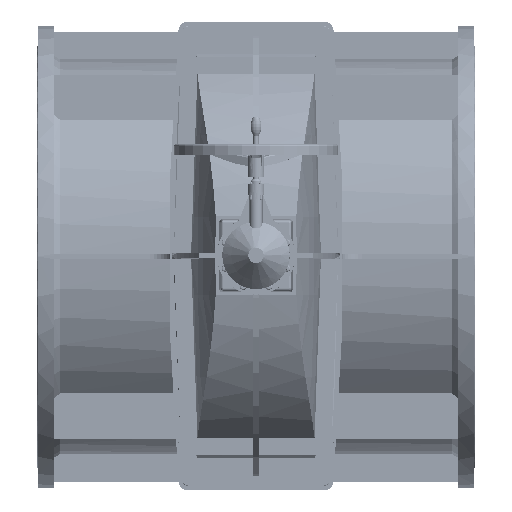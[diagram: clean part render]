
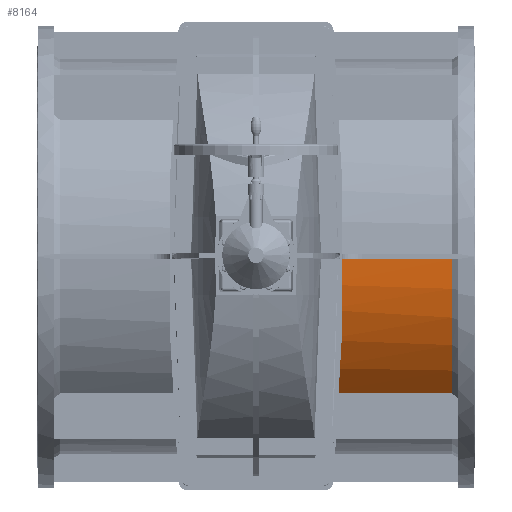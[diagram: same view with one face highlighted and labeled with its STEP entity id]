
A CAD part, top view. The second image highlights one B-rep face of the part: STEP entity #8164.
In plain terms, the highlighted cylindrical face has radius 720 mm (diameter 1440 mm), a partial arc.
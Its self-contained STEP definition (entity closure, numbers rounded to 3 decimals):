
#8164=ADVANCED_FACE('',(#12709),#12711,.T.);
#12709=FACE_BOUND('',#12710,.T.);
#12710=EDGE_LOOP('',(#30457,#30458,#30459,#30460));
#12711=CYLINDRICAL_SURFACE('',#12712,720.);
#12712=AXIS2_PLACEMENT_3D('',#12713,#12714,#12715);
#12713=CARTESIAN_POINT('',(735.,0.,0.));
#12714=DIRECTION('',(-1.,0.,0.));
#12715=DIRECTION('',(0.,1.,0.));
#30457=ORIENTED_EDGE('',*,*,#39523,.F.);
#30458=ORIENTED_EDGE('',*,*,#39653,.T.);
#30459=ORIENTED_EDGE('',*,*,#39617,.F.);
#30460=ORIENTED_EDGE('',*,*,#39582,.T.);
#39523=EDGE_CURVE('',#44534,#44536,#44537,.T.);
#39582=EDGE_CURVE('',#44627,#44536,#44628,.F.);
#39617=EDGE_CURVE('',#44627,#44693,#44694,.F.);
#39653=EDGE_CURVE('',#44534,#44693,#44750,.T.);
#44534=VERTEX_POINT('',#53932);
#44536=VERTEX_POINT('',#53943);
#44537=LINE('',#53944,#53945);
#44627=VERTEX_POINT('',#54184);
#44628=B_SPLINE_CURVE_WITH_KNOTS('',3,
(#54185,#54186,#54187,#54188,#54189,#54190,#54191,#54192,#54193,#54194,#54195,#54196,
#54197,#54198,#54199,#54200,#54201,#54202,#54203,#54204,#54205,#54206,#54207,#54208,
#54209,#54210,#54211,#54212,#54213,#54214,#54215,#54216,#54217,#54218,#54219,#54220),
.UNSPECIFIED.,.F.,.F.,
(4,1,1,1,1,1,1,1,1,1,1,1,1,1,1,1,1,1,1,1,1,1,1,1,1,1,1,1,1,1,1,1,1,4),
(0.,0.033,0.065,0.098,0.13,0.162,
0.194,0.226,0.258,0.29,0.322,
0.354,0.385,0.416,0.447,0.477,
0.516,0.555,0.593,0.62,0.647,
0.675,0.705,0.745,0.785,0.822,
0.848,0.871,0.9,0.928,0.954,
0.972,0.987,1.),
.UNSPECIFIED.);
#44693=VERTEX_POINT('',#54487);
#44694=LINE('',#54488,#54489);
#44750=CIRCLE('',#54675,720.);
#53932=CARTESIAN_POINT('',(715.,-498.964,519.072));
#53943=CARTESIAN_POINT('',(218.196,-498.964,519.072));
#53944=CARTESIAN_POINT('',(715.,-498.964,519.072));
#53945=VECTOR('',#53946,1.);
#53946=DIRECTION('',(-1.,0.,0.));
#54184=CARTESIAN_POINT('',(244.956,-10.,719.931));
#54185=CARTESIAN_POINT('',(218.196,-498.964,519.072));
#54186=CARTESIAN_POINT('',(218.634,-494.721,523.15));
#54187=CARTESIAN_POINT('',(219.514,-486.106,531.23));
#54188=CARTESIAN_POINT('',(220.83,-472.915,543.006));
#54189=CARTESIAN_POINT('',(222.135,-459.492,554.409));
#54190=CARTESIAN_POINT('',(223.424,-445.886,565.409));
#54191=CARTESIAN_POINT('',(224.696,-432.087,576.022));
#54192=CARTESIAN_POINT('',(225.953,-418.058,586.283));
#54193=CARTESIAN_POINT('',(227.191,-403.809,596.186));
#54194=CARTESIAN_POINT('',(228.41,-389.339,605.735));
#54195=CARTESIAN_POINT('',(229.603,-374.685,614.907));
#54196=CARTESIAN_POINT('',(230.766,-359.881,623.686));
#54197=CARTESIAN_POINT('',(231.892,-344.993,632.041));
#54198=CARTESIAN_POINT('',(232.98,-330.032,639.979));
#54199=CARTESIAN_POINT('',(234.024,-315.065,647.477));
#54200=CARTESIAN_POINT('',(235.023,-300.102,654.545));
#54201=CARTESIAN_POINT('',(236.074,-283.605,661.882));
#54202=CARTESIAN_POINT('',(237.159,-265.562,669.347));
#54203=CARTESIAN_POINT('',(238.256,-246.003,676.776));
#54204=CARTESIAN_POINT('',(239.175,-228.338,682.91));
#54205=CARTESIAN_POINT('',(239.938,-212.589,687.951));
#54206=CARTESIAN_POINT('',(240.582,-198.439,692.167));
#54207=CARTESIAN_POINT('',(241.206,-183.718,696.225));
#54208=CARTESIAN_POINT('',(241.883,-166.45,700.584));
#54209=CARTESIAN_POINT('',(242.561,-147.12,704.92));
#54210=CARTESIAN_POINT('',(243.195,-126.303,708.937));
#54211=CARTESIAN_POINT('',(243.668,-108.101,711.908));
#54212=CARTESIAN_POINT('',(244.013,-92.563,714.067));
#54213=CARTESIAN_POINT('',(244.282,-78.586,715.746));
#54214=CARTESIAN_POINT('',(244.514,-64.18,717.188));
#54215=CARTESIAN_POINT('',(244.703,-49.251,718.364));
#54216=CARTESIAN_POINT('',(244.824,-36.372,719.114));
#54217=CARTESIAN_POINT('',(244.896,-25.731,719.558));
#54218=CARTESIAN_POINT('',(244.935,-17.507,719.801));
#54219=CARTESIAN_POINT('',(244.951,-12.383,719.897));
#54220=CARTESIAN_POINT('',(244.956,-10.,719.931));
#54487=CARTESIAN_POINT('',(715.,-10.,719.931));
#54488=CARTESIAN_POINT('',(715.,-10.,719.931));
#54489=VECTOR('',#54490,1.);
#54490=DIRECTION('',(-1.,0.,0.));
#54675=AXIS2_PLACEMENT_3D('',#54676,#54677,#54678);
#54676=CARTESIAN_POINT('',(715.,0.,0.));
#54677=DIRECTION('',(-1.,0.,0.));
#54678=DIRECTION('',(0.,-0.693,0.721));
